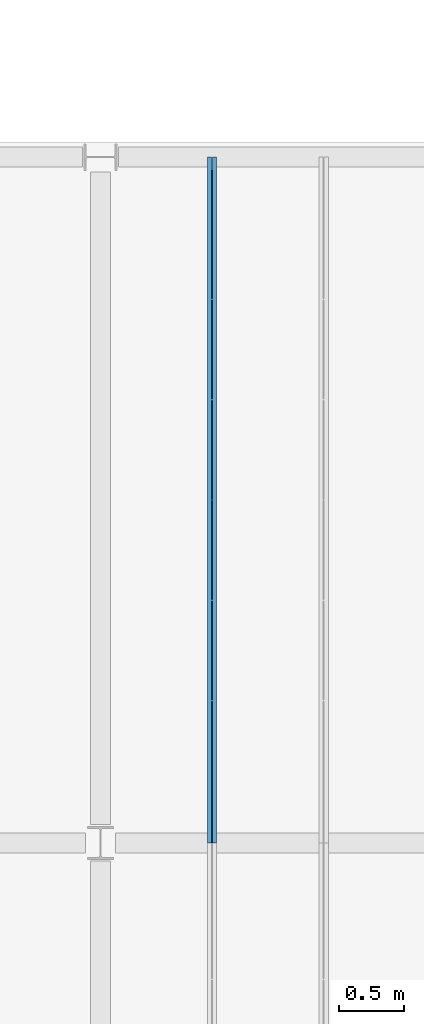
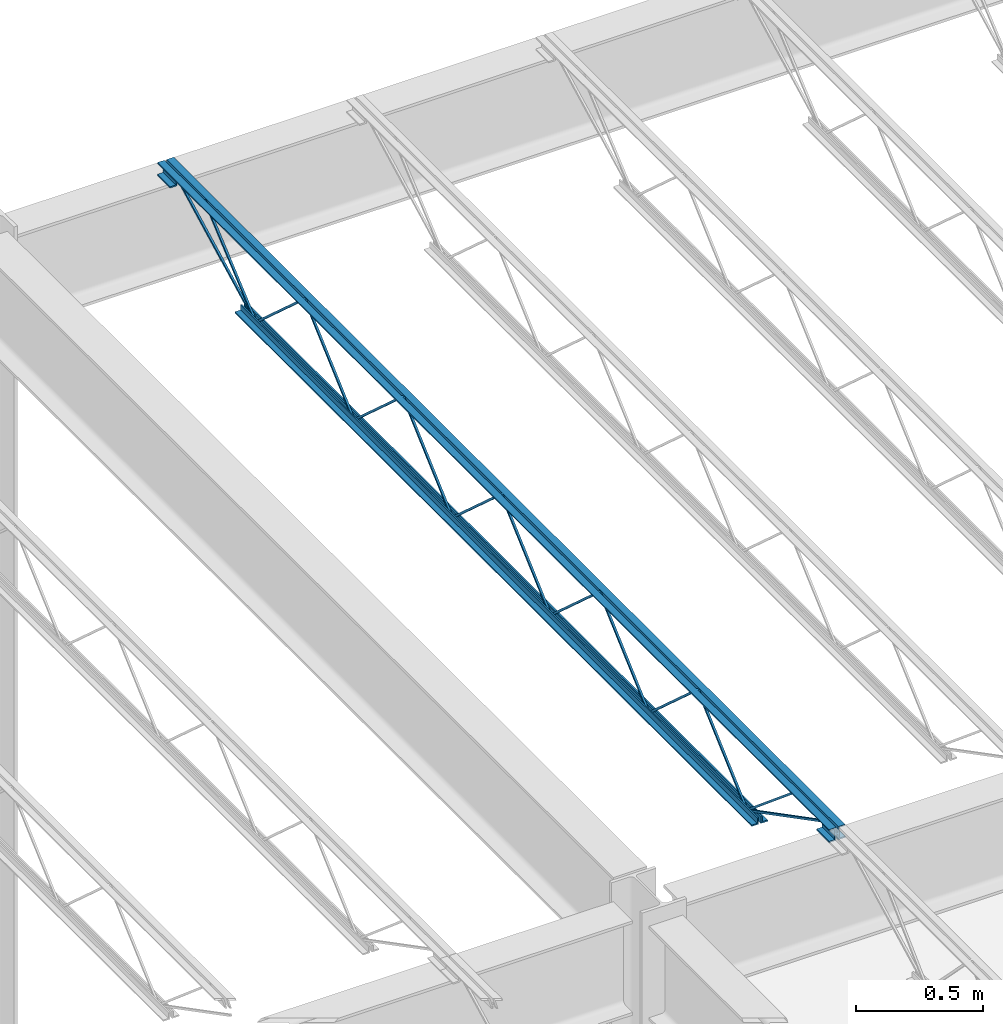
# One storey, part 101 of 119: 1 beam.
"""IFC2X3 building model written with IfcOpenShell, lengths in metres."""

from ifc_helpers import new_model, entity, si_unit, converted_unit, frame, origin, place, context, project, spatial, face_set, surface_model, element, save


model = new_model("IFC2X3")

# Units and contexts
model_context = context("Model", 3, precision=1e-09, world=origin())
plan_context = context("Plan", 3, precision=1e-09, world=origin())
ifc_project = project(units=[si_unit("LENGTHUNIT", "METRE"), si_unit("AREAUNIT", "SQUARE_METRE"), si_unit("VOLUMEUNIT", "CUBIC_METRE"), converted_unit("PLANEANGLEUNIT", "DEGREE", entity("IfcRatioMeasure", 0.01745329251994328), si_unit("PLANEANGLEUNIT", "RADIAN"), dimensions=[0, 0, 0, 0, 0, 0, 0]), si_unit("TIMEUNIT", "SECOND")], contexts=[model_context, plan_context])

# Site, building, storey
site_placement = place(None, origin())
site = spatial("IfcSite", under=ifc_project, at=site_placement, Name="Default", CompositionType="ELEMENT")
building_placement = place(site_placement, origin())
building = spatial("IfcBuilding", under=site, at=building_placement, CompositionType="ELEMENT")
storey_placement = place(building_placement, frame((0.0, 0.0, 4.570000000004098)))
storey = spatial("IfcBuildingStorey", under=building, at=storey_placement, Name="Second Floor", CompositionType="ELEMENT", Elevation=4.570000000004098)

# Beam
beam_placement = place(storey_placement, frame((-19.23341249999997, 44.7805, 4.323999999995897)))
element("IfcBeam", 1, at=beam_placement, inside=storey, Name="M_K-Series Bar Joist-Rod Web:14K1:14K1", ObjectType="M_K-Series Bar Joist-Rod Web:14K1", context=model_context, shape_type="SurfaceModel", body=[
    surface_model("IfcFaceBasedSurfaceModel", [(0.04149999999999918, 3.042999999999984, 0.01110000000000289), (0.03200000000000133, 3.042999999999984, 0.01110000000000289), (0.03200000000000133, 3.042999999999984, 0.001600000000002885), (0.04149999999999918, 3.042999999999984, 0.001600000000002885), (0.03199999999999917, 3.044354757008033, 0.01110000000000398), (0.04149999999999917, 3.044354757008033, 0.01110000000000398), (0.03200000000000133, 3.047995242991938, 0.001600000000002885), (0.03200000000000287, 3.430145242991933, 0.3449000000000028), (0.03200000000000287, 3.432854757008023, 0.3449000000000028), (0.03200000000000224, 3.815004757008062, 0.001600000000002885), (0.03200000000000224, 3.819999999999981, 0.001600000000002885), (0.03200000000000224, 3.819999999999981, 0.01110000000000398), (0.03200000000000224, 3.818645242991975, 0.01110000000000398), (0.0320000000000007, 3.436495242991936, 0.3544000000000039), (0.03200000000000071, 3.426504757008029, 0.3544000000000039), (0.04150000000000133, 3.047995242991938, 0.001600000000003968), (0.04149999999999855, 3.430145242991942, 0.3449000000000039), (0.04149999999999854, 3.432854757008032, 0.3449000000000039), (0.04150000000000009, 3.815004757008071, 0.001600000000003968), (0.04150000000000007, 3.819999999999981, 0.001600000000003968), (0.04150000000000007, 3.819999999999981, 0.01110000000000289), (0.04150000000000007, 3.818645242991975, 0.01110000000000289), (0.0415000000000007, 3.436495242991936, 0.3544000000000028), (0.04150000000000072, 3.426504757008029, 0.3544000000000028), (0.04150000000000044, 2.265999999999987, 0.01110000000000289), (0.0320000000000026, 2.265999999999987, 0.01110000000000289), (0.0320000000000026, 2.265999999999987, 0.001600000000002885), (0.04150000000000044, 2.265999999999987, 0.001600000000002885), (0.03200000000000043, 2.267354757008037, 0.01110000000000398), (0.04150000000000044, 2.267354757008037, 0.01110000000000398), (0.0320000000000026, 2.270995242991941, 0.001600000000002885), (0.03200000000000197, 2.653145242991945, 0.3449000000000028), (0.03200000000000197, 2.655854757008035, 0.3449000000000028), (0.03200000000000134, 3.038004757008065, 0.001600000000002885), (0.0320000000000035, 3.042999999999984, 0.01110000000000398), (0.03200000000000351, 3.041645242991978, 0.01110000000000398), (0.03200000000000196, 2.659495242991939, 0.3544000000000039), (0.03200000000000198, 2.649504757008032, 0.3544000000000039), (0.0415000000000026, 2.270995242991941, 0.001600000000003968), (0.04149999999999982, 2.653145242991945, 0.3449000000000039), (0.0414999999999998, 2.655854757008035, 0.3449000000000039), (0.04150000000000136, 3.038004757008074, 0.001600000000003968), (0.04150000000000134, 3.042999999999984, 0.001600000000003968), (0.04149999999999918, 3.041645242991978, 0.01110000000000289), (0.0414999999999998, 2.659495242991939, 0.3544000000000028), (0.04149999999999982, 2.649504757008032, 0.3544000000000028), (0.04149999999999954, 1.488999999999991, 0.01110000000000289), (0.03200000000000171, 1.488999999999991, 0.01110000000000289), (0.03200000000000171, 1.488999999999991, 0.001600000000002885), (0.04149999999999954, 1.488999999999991, 0.001600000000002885), (0.03199999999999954, 1.49035475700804, 0.01110000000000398), (0.04149999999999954, 1.49035475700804, 0.01110000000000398), (0.0320000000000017, 1.493995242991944, 0.001600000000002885), (0.03200000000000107, 1.876145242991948, 0.3449000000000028), (0.03200000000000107, 1.878854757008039, 0.3449000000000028), (0.03200000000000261, 2.261004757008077, 0.001600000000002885), (0.0320000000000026, 2.265999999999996, 0.001600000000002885), (0.0320000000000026, 2.265999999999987, 0.01110000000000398), (0.0320000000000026, 2.264645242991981, 0.01110000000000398), (0.03200000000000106, 1.882495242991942, 0.3544000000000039), (0.03200000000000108, 1.872504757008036, 0.3544000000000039), (0.0415000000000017, 1.493995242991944, 0.001600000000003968), (0.04149999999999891, 1.876145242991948, 0.3449000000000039), (0.04149999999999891, 1.878854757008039, 0.3449000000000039), (0.04150000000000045, 2.261004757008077, 0.001600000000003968), (0.04150000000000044, 2.265999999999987, 0.001600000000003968), (0.04150000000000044, 2.265999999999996, 0.01110000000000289), (0.04150000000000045, 2.264645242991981, 0.01110000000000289), (0.0414999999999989, 1.882495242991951, 0.3544000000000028), (0.04149999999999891, 1.872504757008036, 0.3544000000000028), (0.04149999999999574, 3.819999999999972, 0.01109999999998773), (0.03199999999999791, 3.819999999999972, 0.01109999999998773), (0.03199999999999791, 3.819999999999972, 0.001599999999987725), (0.04149999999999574, 3.819999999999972, 0.001599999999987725), (0.0319999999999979, 3.821354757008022, 0.01109999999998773), (0.04149999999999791, 3.821354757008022, 0.01109999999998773), (0.03199999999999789, 3.824995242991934, 0.001599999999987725), (0.03199999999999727, 4.207145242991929, 0.3448999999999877), (0.03199999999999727, 4.20985475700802, 0.3448999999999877), (0.03199999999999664, 4.592004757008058, 0.001599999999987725), (0.03199999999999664, 4.596999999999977, 0.001599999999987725), (0.0319999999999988, 4.596999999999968, 0.01109999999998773), (0.0319999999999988, 4.595645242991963, 0.01109999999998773), (0.03199999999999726, 4.213495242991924, 0.3543999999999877), (0.03199999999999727, 4.203504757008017, 0.3543999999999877), (0.0414999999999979, 3.824995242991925, 0.001599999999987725), (0.04149999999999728, 4.207145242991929, 0.3448999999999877), (0.04149999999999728, 4.20985475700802, 0.3448999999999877), (0.04149999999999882, 4.592004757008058, 0.001599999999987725), (0.04149999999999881, 4.596999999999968, 0.001599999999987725), (0.04149999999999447, 4.596999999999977, 0.01109999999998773), (0.04149999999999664, 4.595645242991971, 0.01109999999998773), (0.04149999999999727, 4.213495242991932, 0.3543999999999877), (0.04149999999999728, 4.203504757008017, 0.3543999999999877), (0.04150000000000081, 0.7119999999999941, 0.01110000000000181), (0.03200000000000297, 0.7119999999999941, 0.01110000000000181), (0.03200000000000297, 0.7119999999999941, 0.001600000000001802), (0.04150000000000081, 0.7119999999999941, 0.001600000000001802), (0.03200000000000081, 0.7133547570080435, 0.01110000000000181), (0.04150000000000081, 0.7133547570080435, 0.01110000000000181), (0.03200000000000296, 0.7169952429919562, 0.001600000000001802), (0.03200000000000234, 1.099145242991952, 0.3449000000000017), (0.03200000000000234, 1.101854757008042, 0.3449000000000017), (0.03200000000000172, 1.484004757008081, 0.001600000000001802), (0.03200000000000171, 1.488999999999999, 0.001600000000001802), (0.03200000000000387, 1.488999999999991, 0.01110000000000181), (0.03200000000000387, 1.487645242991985, 0.01110000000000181), (0.03200000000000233, 1.105495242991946, 0.3544000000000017), (0.03200000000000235, 1.095504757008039, 0.3544000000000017), (0.04150000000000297, 0.7169952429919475, 0.001600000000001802), (0.04150000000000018, 1.099145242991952, 0.3449000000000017), (0.04150000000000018, 1.101854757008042, 0.3449000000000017), (0.04150000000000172, 1.484004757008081, 0.001600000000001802), (0.04150000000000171, 1.488999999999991, 0.001600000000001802), (0.04149999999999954, 1.488999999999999, 0.01110000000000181), (0.04149999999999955, 1.487645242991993, 0.01110000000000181), (0.04150000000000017, 1.105495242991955, 0.3544000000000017), (0.04150000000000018, 1.095504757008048, 0.3544000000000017), (0.0319999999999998, 5.308999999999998, 0.3559999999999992), (0.0, 5.308999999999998, 0.3559999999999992), (0.0, 5.308999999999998, 0.3494999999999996), (0.02549999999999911, 5.308999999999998, 0.3494999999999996), (0.02549999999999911, 5.308999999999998, 0.3239999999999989), (0.0319999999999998, 5.308999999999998, 0.3239999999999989), (0.04149999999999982, 5.308999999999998, 0.3559999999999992), (0.04149999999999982, 5.308999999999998, 0.3239999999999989), (0.0480000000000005, 5.308999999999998, 0.3239999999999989), (0.0480000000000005, 5.308999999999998, 0.3494999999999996), (0.07349999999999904, 5.308999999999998, 0.3494999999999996), (0.07349999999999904, 5.308999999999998, 0.3559999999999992), (0.0319999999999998, 0.0, 0.3559999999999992), (0.0, 0.0, 0.3559999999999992), (0.0, 0.0, 0.3494999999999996), (0.02549999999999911, 0.0, 0.3494999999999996), (0.02549999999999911, 0.0, 0.3239999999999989), (0.0319999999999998, 0.0, 0.3239999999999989), (0.0414999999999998, 0.0, 0.3559999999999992), (0.0414999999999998, 0.0, 0.3239999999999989), (0.04800000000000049, 0.0, 0.3239999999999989), (0.04800000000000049, 0.0, 0.3494999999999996), (0.07349999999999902, 0.0, 0.3494999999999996), (0.07349999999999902, 0.0, 0.3559999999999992), (0.04149999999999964, 0.09999999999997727, 0.2924999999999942), (0.07349999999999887, 0.09999999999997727, 0.2924999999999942), (0.07349999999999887, 0.09999999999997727, 0.2989999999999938), (0.04800000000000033, 0.09999999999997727, 0.2989999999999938), (0.04800000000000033, 0.09999999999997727, 0.3239999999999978), (0.04149999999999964, 0.09999999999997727, 0.3239999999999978), (0.0, 0.09999999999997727, 0.2924999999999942), (0.03199999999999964, 0.09999999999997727, 0.2924999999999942), (0.03199999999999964, 0.09999999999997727, 0.3239999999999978), (0.02549999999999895, 0.09999999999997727, 0.3239999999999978), (0.02549999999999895, 0.09999999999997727, 0.2989999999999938), (0.0, 0.09999999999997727, 0.2989999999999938), (0.0414999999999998, 0.0, 0.2924999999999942), (0.07349999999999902, 0.0, 0.2924999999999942), (0.07349999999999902, 0.0, 0.2989999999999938), (0.04800000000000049, 0.0, 0.2989999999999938), (0.04800000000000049, 0.0, 0.3239999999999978), (0.0414999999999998, 0.0, 0.3239999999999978), (0.0, 0.0, 0.2924999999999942), (0.0319999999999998, 0.0, 0.2924999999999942), (0.0319999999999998, 0.0, 0.3239999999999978), (0.02549999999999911, 0.0, 0.3239999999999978), (0.02549999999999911, 0.0, 0.2989999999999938), (0.0, 0.0, 0.2989999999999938), (0.0319999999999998, 5.308999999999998, 0.2924999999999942), (0.0319999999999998, 5.308999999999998, 0.3239999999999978), (0.02550000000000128, 5.308999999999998, 0.3239999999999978), (0.02550000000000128, 5.308999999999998, 0.2989999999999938), (0.0, 5.308999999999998, 0.2989999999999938), (0.0, 5.308999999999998, 0.2924999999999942), (0.04149999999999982, 5.308999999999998, 0.2924999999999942), (0.0735000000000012, 5.308999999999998, 0.2924999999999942), (0.0735000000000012, 5.308999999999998, 0.2989999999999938), (0.0480000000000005, 5.308999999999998, 0.2989999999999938), (0.0480000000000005, 5.308999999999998, 0.3239999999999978), (0.04149999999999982, 5.308999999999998, 0.3239999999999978), (0.03199999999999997, 5.208999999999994, 0.2924999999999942), (0.03199999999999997, 5.208999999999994, 0.3239999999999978), (0.02550000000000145, 5.208999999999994, 0.3239999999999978), (0.02550000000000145, 5.208999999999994, 0.2989999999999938), (0.0, 5.208999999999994, 0.2989999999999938), (0.0, 5.208999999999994, 0.2924999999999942), (0.04149999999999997, 5.208999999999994, 0.2924999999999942), (0.07350000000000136, 5.208999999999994, 0.2924999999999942), (0.07350000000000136, 5.208999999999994, 0.2989999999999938), (0.04800000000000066, 5.208999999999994, 0.2989999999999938), (0.04800000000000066, 5.208999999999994, 0.3239999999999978), (0.04149999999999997, 5.208999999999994, 0.3239999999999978), (0.0320000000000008, 4.697000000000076, 0.0), (0.0320000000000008, 4.697000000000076, 0.03199999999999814), (0.02550000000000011, 4.697000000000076, 0.03199999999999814), (0.02550000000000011, 4.697000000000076, 0.006499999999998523), (0.0, 4.697000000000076, 0.006499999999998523), (0.0, 4.697000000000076, 0.0), (0.04150000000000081, 4.697000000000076, 0.0), (0.07350000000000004, 4.697000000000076, 0.0), (0.07350000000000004, 4.697000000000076, 0.006499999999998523), (0.0480000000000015, 4.697000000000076, 0.006499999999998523), (0.0480000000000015, 4.697000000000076, 0.03199999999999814), (0.04150000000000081, 4.697000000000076, 0.03199999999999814), (0.03199999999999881, 0.6120000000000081, 0.0), (0.03199999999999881, 0.6120000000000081, 0.03199999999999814), (0.02549999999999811, 0.6120000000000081, 0.03199999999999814), (0.02549999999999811, 0.6120000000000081, 0.006499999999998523), (0.0, 0.6120000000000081, 0.006499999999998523), (0.0, 0.6120000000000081, 0.0), (0.04149999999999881, 0.6120000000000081, 0.0), (0.07349999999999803, 0.6120000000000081, 0.0), (0.07349999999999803, 0.6120000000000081, 0.006499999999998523), (0.04799999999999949, 0.6120000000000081, 0.006499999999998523), (0.04799999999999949, 0.6120000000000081, 0.03199999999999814), (0.04149999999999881, 0.6120000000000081, 0.03199999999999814), (0.04150000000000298, 0.7141882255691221, 0.01056594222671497), (0.03200000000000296, 0.7141882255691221, 0.01056594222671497), (0.03200000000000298, 0.7098117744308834, 0.00213405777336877), (0.04150000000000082, 0.7098117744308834, 0.00213405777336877), (0.04150000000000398, 0.101159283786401, 0.3287499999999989), (0.04150000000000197, 0.0, 0.3287499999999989), (0.0414999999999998, 0.0, 0.3192499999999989), (0.04149999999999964, 0.09884071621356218, 0.3192499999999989), (0.03200000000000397, 0.09884071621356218, 0.3192499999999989), (0.03200000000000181, 0.101159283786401, 0.3287499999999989), (0.03200000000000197, 0.0, 0.3287499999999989), (0.03200000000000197, 0.0, 0.3192499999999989), (0.04149999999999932, 0.3035428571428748, 0.3417000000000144), (0.03200000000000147, 0.3035428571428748, 0.3417000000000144), (0.03200000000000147, 0.3035428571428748, 0.3322000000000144), (0.04149999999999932, 0.3035428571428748, 0.3322000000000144), (0.03199999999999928, 0.3179658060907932, 0.3417000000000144), (0.04149999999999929, 0.3179658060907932, 0.3417000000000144), (0.03200000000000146, 0.3145199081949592, 0.3322000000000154), (0.03200000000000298, 0.7089547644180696, 0.002704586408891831), (0.0320000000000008, 0.7150452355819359, 0.009995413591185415), (0.04150000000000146, 0.3145199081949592, 0.3322000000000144), (0.04149999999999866, 0.7089547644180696, 0.002704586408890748), (0.04150000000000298, 0.7150452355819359, 0.009995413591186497), (0.04150000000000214, 5.211188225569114, 0.3197840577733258), (0.04149999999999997, 5.206811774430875, 0.328215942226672), (0.03199999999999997, 5.206811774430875, 0.328215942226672), (0.03200000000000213, 5.211188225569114, 0.3197840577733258), (0.04150000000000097, 4.599188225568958, 0.002134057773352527), (0.04149999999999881, 4.59481177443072, 0.01056594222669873), (0.03199999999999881, 4.59481177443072, 0.01056594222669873), (0.03200000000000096, 4.599188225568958, 0.002134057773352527), (0.04150000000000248, 5.003094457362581, 0.3460340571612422), (0.04150000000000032, 4.996934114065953, 0.35326594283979), (0.03200000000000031, 4.996934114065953, 0.3532659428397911), (0.03200000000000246, 5.003094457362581, 0.3460340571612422), (0.04150000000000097, 4.600080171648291, 0.002734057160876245), (0.04149999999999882, 4.593919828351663, 0.00996594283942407), (0.03199999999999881, 4.593919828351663, 0.00996594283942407), (0.03200000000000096, 4.600080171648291, 0.002734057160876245)], [face_set([[[0, 1, 2, 3]], [[1, 4, 5, 0]], [[2, 6, 7, 8, 9, 10, 11, 12, 13, 14, 4, 1]], [[3, 2, 6, 15]], [[0, 3, 15, 16, 17, 18, 19, 20, 21, 22, 23, 5]], [[4, 5, 23, 14]], [[15, 16, 7, 6]], [[14, 13, 22, 23]], [[16, 7, 8, 17]], [[13, 12, 21, 22]], [[17, 8, 9, 18]], [[20, 11, 10, 19]], [[12, 11, 20, 21]], [[18, 9, 10, 19]]]), face_set([[[24, 25, 26, 27]], [[25, 28, 29, 24]], [[26, 30, 31, 32, 33, 2, 34, 35, 36, 37, 28, 25]], [[27, 26, 30, 38]], [[24, 27, 38, 39, 40, 41, 42, 0, 43, 44, 45, 29]], [[28, 29, 45, 37]], [[38, 39, 31, 30]], [[37, 36, 44, 45]], [[39, 31, 32, 40]], [[36, 35, 43, 44]], [[40, 32, 33, 41]], [[0, 34, 2, 42]], [[35, 34, 0, 43]], [[41, 33, 2, 42]]]), face_set([[[46, 47, 48, 49]], [[47, 50, 51, 46]], [[48, 52, 53, 54, 55, 56, 57, 58, 59, 60, 50, 47]], [[49, 48, 52, 61]], [[46, 49, 61, 62, 63, 64, 65, 66, 67, 68, 69, 51]], [[50, 51, 69, 60]], [[61, 62, 53, 52]], [[60, 59, 68, 69]], [[62, 53, 54, 63]], [[59, 58, 67, 68]], [[63, 54, 55, 64]], [[66, 57, 56, 65]], [[58, 57, 66, 67]], [[64, 55, 56, 65]]]), face_set([[[70, 71, 72, 73]], [[71, 74, 75, 70]], [[72, 76, 77, 78, 79, 80, 81, 82, 83, 84, 74, 71]], [[73, 72, 76, 85]], [[70, 73, 85, 86, 87, 88, 89, 90, 91, 92, 93, 75]], [[74, 75, 93, 84]], [[85, 86, 77, 76]], [[84, 83, 92, 93]], [[86, 77, 78, 87]], [[83, 82, 91, 92]], [[87, 78, 79, 88]], [[90, 81, 80, 89]], [[82, 81, 90, 91]], [[88, 79, 80, 89]]]), face_set([[[94, 95, 96, 97]], [[95, 98, 99, 94]], [[96, 100, 101, 102, 103, 104, 105, 106, 107, 108, 98, 95]], [[97, 96, 100, 109]], [[94, 97, 109, 110, 111, 112, 113, 114, 115, 116, 117, 99]], [[98, 99, 117, 108]], [[109, 110, 101, 100]], [[108, 107, 116, 117]], [[110, 101, 102, 111]], [[107, 106, 115, 116]], [[111, 102, 103, 112]], [[114, 105, 104, 113]], [[106, 105, 114, 115]], [[112, 103, 104, 113]]]), face_set([[[118, 119, 120, 121, 122, 123]], [[124, 125, 126, 127, 128, 129]], [[130, 131, 132, 133, 134, 135]], [[136, 137, 138, 139, 140, 141]], [[123, 118, 130, 135]], [[122, 123, 135, 134]], [[121, 133, 134, 122]], [[120, 121, 133, 132]], [[119, 131, 132, 120]], [[118, 130, 131, 119]], [[129, 141, 136, 124]], [[128, 129, 141, 140]], [[127, 128, 140, 139]], [[126, 127, 139, 138]], [[125, 126, 138, 137]], [[124, 136, 137, 125]]]), face_set([[[142, 143, 144, 145, 146, 147]], [[148, 149, 150, 151, 152, 153]], [[154, 155, 156, 157, 158, 159]], [[160, 161, 162, 163, 164, 165]], [[147, 159, 154, 142]], [[146, 158, 159, 147]], [[145, 146, 158, 157]], [[144, 156, 157, 145]], [[143, 144, 156, 155]], [[142, 143, 155, 154]], [[153, 165, 160, 148]], [[152, 164, 165, 153]], [[151, 163, 164, 152]], [[150, 162, 163, 151]], [[149, 150, 162, 161]], [[148, 149, 161, 160]]]), face_set([[[166, 167, 168, 169, 170, 171]], [[172, 173, 174, 175, 176, 177]], [[178, 179, 180, 181, 182, 183]], [[184, 185, 186, 187, 188, 189]], [[171, 166, 178, 183]], [[170, 182, 183, 171]], [[169, 181, 182, 170]], [[168, 180, 181, 169]], [[167, 179, 180, 168]], [[166, 167, 179, 178]], [[177, 189, 184, 172]], [[176, 188, 189, 177]], [[175, 176, 188, 187]], [[174, 186, 187, 175]], [[173, 174, 186, 185]], [[172, 173, 185, 184]]]), face_set([[[190, 191, 192, 193, 194, 195]], [[196, 197, 198, 199, 200, 201]], [[202, 203, 204, 205, 206, 207]], [[208, 209, 210, 211, 212, 213]], [[195, 190, 202, 207]], [[194, 206, 207, 195]], [[193, 205, 206, 194]], [[192, 204, 205, 193]], [[191, 203, 204, 192]], [[190, 191, 203, 202]], [[201, 213, 208, 196]], [[200, 212, 213, 201]], [[199, 200, 212, 211]], [[198, 210, 211, 199]], [[197, 198, 210, 209]], [[196, 197, 209, 208]]]), face_set([[[214, 215, 216, 217]], [[217, 214, 218, 219, 220, 221]], [[216, 217, 221, 222]], [[215, 223, 224, 225, 222, 216]], [[214, 218, 223, 215]], [[219, 224, 225, 220]], [[222, 221, 220, 225]], [[218, 219, 224, 223]]]), face_set([[[226, 227, 228, 229]], [[227, 230, 231, 226]], [[228, 232, 233, 234, 230, 227]], [[229, 228, 232, 235]], [[226, 229, 235, 236, 237, 231]], [[237, 234, 233, 236]], [[230, 234, 237, 231]], [[235, 232, 233, 236]]]), face_set([[[238, 239, 240, 241]], [[242, 243, 244, 245]], [[241, 245, 242, 238]], [[240, 244, 245, 241]], [[239, 240, 244, 243]], [[238, 239, 243, 242]]]), face_set([[[246, 247, 248, 249]], [[250, 251, 252, 253]], [[249, 253, 250, 246]], [[248, 252, 253, 249]], [[247, 248, 252, 251]], [[246, 247, 251, 250]]])]),
])

save(model, "model.ifc")
